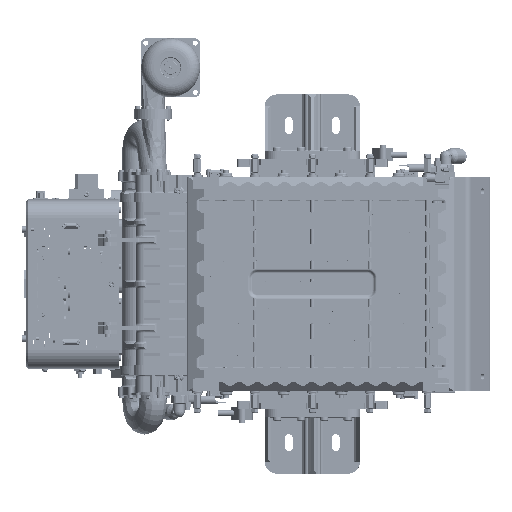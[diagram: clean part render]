
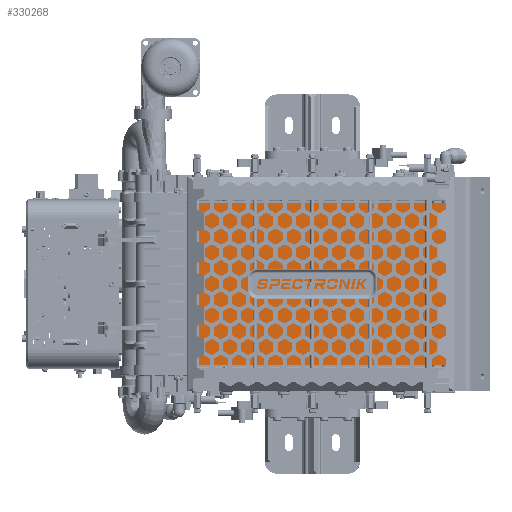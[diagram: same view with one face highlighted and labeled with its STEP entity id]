
A CAD part, top view. The second image highlights one B-rep face of the part: STEP entity #330268.
In plain terms, the highlighted planar face has unit normal (0, 0, 1) as drawn and (0, 1, 0) by its records, which use the part's own axes.
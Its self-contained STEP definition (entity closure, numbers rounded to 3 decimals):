
#10647 = VERTEX_POINT ( 'NONE', #225211 ) ;
#29070 = VECTOR ( 'NONE', #614265, 1000. ) ;
#43695 = DIRECTION ( 'NONE',  ( 0., 0., -1. ) ) ;
#46315 = VERTEX_POINT ( 'NONE', #349183 ) ;
#87518 = FACE_OUTER_BOUND ( 'NONE', #624791, .T. ) ;
#89260 = EDGE_CURVE ( 'NONE', #46315, #10647, #701299, .T. ) ;
#94654 = PLANE ( 'NONE',  #689973 ) ;
#97901 = LINE ( 'NONE', #319514, #111214 ) ;
#100203 = VERTEX_POINT ( 'NONE', #667150 ) ;
#111214 = VECTOR ( 'NONE', #377624, 1000. ) ;
#150920 = DIRECTION ( 'NONE',  ( -1., 0., 0. ) ) ;
#193265 = EDGE_CURVE ( 'NONE', #46315, #494245, #383275, .T. ) ;
#200905 = EDGE_CURVE ( 'NONE', #494245, #100203, #97901, .T. ) ;
#222004 = LINE ( 'NONE', #501699, #29070 ) ;
#225211 = CARTESIAN_POINT ( 'NONE',  ( 120., 25., 0. ) ) ;
#258150 = CARTESIAN_POINT ( 'NONE',  ( 120., 25., 138.1 ) ) ;
#261704 = CARTESIAN_POINT ( 'NONE',  ( -120., 25., 138.1 ) ) ;
#291603 = EDGE_CURVE ( 'NONE', #10647, #100203, #222004, .T. ) ;
#309038 = DIRECTION ( 'NONE',  ( 0., -1., 0. ) ) ;
#311015 = ORIENTED_EDGE ( 'NONE', *, *, #89260, .T. ) ;
#319514 = CARTESIAN_POINT ( 'NONE',  ( -120., 25., 138.1 ) ) ;
#330268 = ADVANCED_FACE ( 'NONE', ( #87518 ), #94654, .F. ) ;
#342587 = ORIENTED_EDGE ( 'NONE', *, *, #200905, .F. ) ;
#349183 = CARTESIAN_POINT ( 'NONE',  ( 120., 25., 138.1 ) ) ;
#367245 = DIRECTION ( 'NONE',  ( 0., 0., -1. ) ) ;
#377624 = DIRECTION ( 'NONE',  ( 0., 0., -1. ) ) ;
#383275 = LINE ( 'NONE', #546734, #440543 ) ;
#440543 = VECTOR ( 'NONE', #150920, 1000. ) ;
#487094 = CARTESIAN_POINT ( 'NONE',  ( -120., 25., 138.1 ) ) ;
#494245 = VERTEX_POINT ( 'NONE', #487094 ) ;
#501699 = CARTESIAN_POINT ( 'NONE',  ( -120., 25., 0. ) ) ;
#546734 = CARTESIAN_POINT ( 'NONE',  ( -120., 25., 138.1 ) ) ;
#614265 = DIRECTION ( 'NONE',  ( -1., 0., 0. ) ) ;
#624791 = EDGE_LOOP ( 'NONE', ( #638900, #342587, #713369, #311015 ) ) ;
#638900 = ORIENTED_EDGE ( 'NONE', *, *, #291603, .T. ) ;
#667150 = CARTESIAN_POINT ( 'NONE',  ( -120., 25., 0. ) ) ;
#689973 = AXIS2_PLACEMENT_3D ( 'NONE', #261704, #309038, #43695 ) ;
#701299 = LINE ( 'NONE', #258150, #718294 ) ;
#713369 = ORIENTED_EDGE ( 'NONE', *, *, #193265, .F. ) ;
#718294 = VECTOR ( 'NONE', #367245, 1000. ) ;
